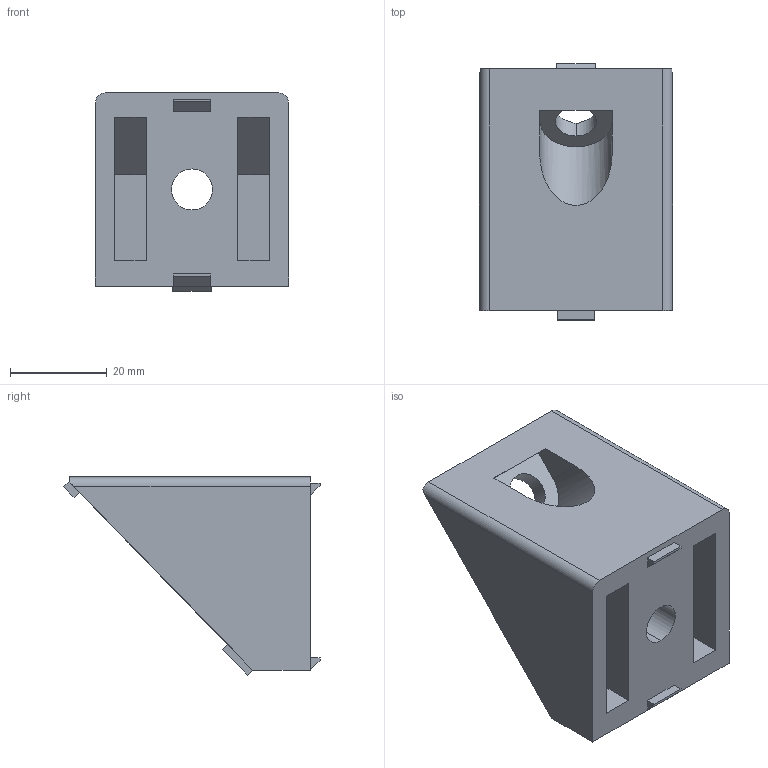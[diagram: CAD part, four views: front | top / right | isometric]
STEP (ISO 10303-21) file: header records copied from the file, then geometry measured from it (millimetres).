
FILE_DESCRIPTION (( 'STEP AP203' ), '1' );
FILE_NAME ('LIMA-45GE40X40-8.STEP', '2018-03-15T12:43:49', ( '' ), ( '' ), 'SwSTEP 2.0', 'SolidWorks 2013', '' );
FILE_SCHEMA (( 'CONFIG_CONTROL_DESIGN' ));
Length unit declared in the file: millimetre
Products named in the file (1): LIMA-45GE40X40-8
Bounding box: 40 x 53.07 x 41.05 mm (x, y, z)
Volume: 32901.6 mm3; surface area: 14056.5 mm2
Topology: 1 solids, 1 shells, 62 faces, 156 edges, 101 vertices
Faces by surface type: plane 53, cylinder 9
Entity records: 1916 total; most frequent: CARTESIAN_POINT 347, ORIENTED_EDGE 312, DIRECTION 290, EDGE_CURVE 156, VECTOR 134, LINE 134, VERTEX_POINT 101, AXIS2_PLACEMENT_3D 78
